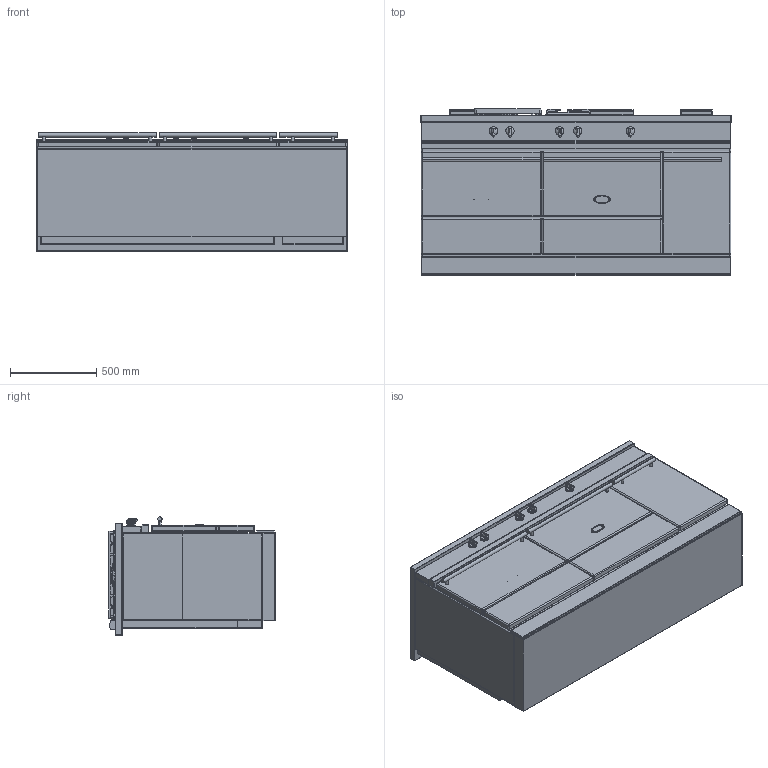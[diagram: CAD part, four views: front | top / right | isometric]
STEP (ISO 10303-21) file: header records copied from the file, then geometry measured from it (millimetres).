
FILE_DESCRIPTION((''),'2;1');
FILE_NAME('LMCF1832D_ASM','2022-04-13T11:53:20',('stagiaire'),(''),'CREO PARAMETRIC BY PTC INC, 2021424','CREO PARAMETRIC BY PTC INC, 2021424','');
FILE_SCHEMA(('AP203_CONFIGURATION_CONTROLLED_3D_DESIGN_OF_MECHANICAL_PARTS_AND_ASSEMBLIES_MIM_LF { 1 0 10303 403 2 1 2 }'));
Products named in the file (21): BASE_EXPORT_SULLY_LMG1832D; 65064012; 19150009; 88064012_ASM; 65049009; 65650001; BASE_EXPORT_SULLY_LMG1832D_ASM; TABLE_SULLY_1805D_3_FEUX; 5KW; 1_5KW; 3KW; 6537023; 65149005; 90000565_ASM; 65062008; 65062012; 90000549_ASM; CHEMINEE_2020_LG371_EXPORT_STEP; CHEMINEE_2020_LG182_EXPORT_STEP; TABLE_SULLY_1805D_TRADITION_ASM; LMCF1832D_ASM
Assembly tree (32 placements, depth 4):
  LMCF1832D_ASM
    BASE_EXPORT_SULLY_LMG1832D_ASM
      BASE_EXPORT_SULLY_LMG1832D
      88064012_ASM  x5
        65064012
        19150009
      65049009
      65650001
    TABLE_SULLY_1805D_TRADITION_ASM
      TABLE_SULLY_1805D_3_FEUX
      5KW
      1_5KW
      3KW
      90000565_ASM
        6537023
        65149005  x4
      90000549_ASM
        65062008
        65062012
        65149005  x4
      CHEMINEE_2020_LG371_EXPORT_STEP  x2
      CHEMINEE_2020_LG182_EXPORT_STEP
Bounding box: 1805 x 967 x 688.5 mm (x, y, z)
Volume: 658197371.1 mm3; surface area: 15616571.3 mm2
Topology: 35 solids, 35 shells, 5899 faces, 16094 edges, 10190 vertices
Faces by surface type: plane 2662, cylinder 1779, bspline 758, sphere 330, torus 192, cone 156, extrusion 22
Entity records: 207434 total; most frequent: CARTESIAN_POINT 59123, ORIENTED_EDGE 24180, DIRECTION 22368, EDGE_CURVE 12090, PRESENTATION_STYLE_ASSIGNMENT 8906, STYLED_ITEM 8906, CURVE_STYLE 8732, VECTOR 8394
